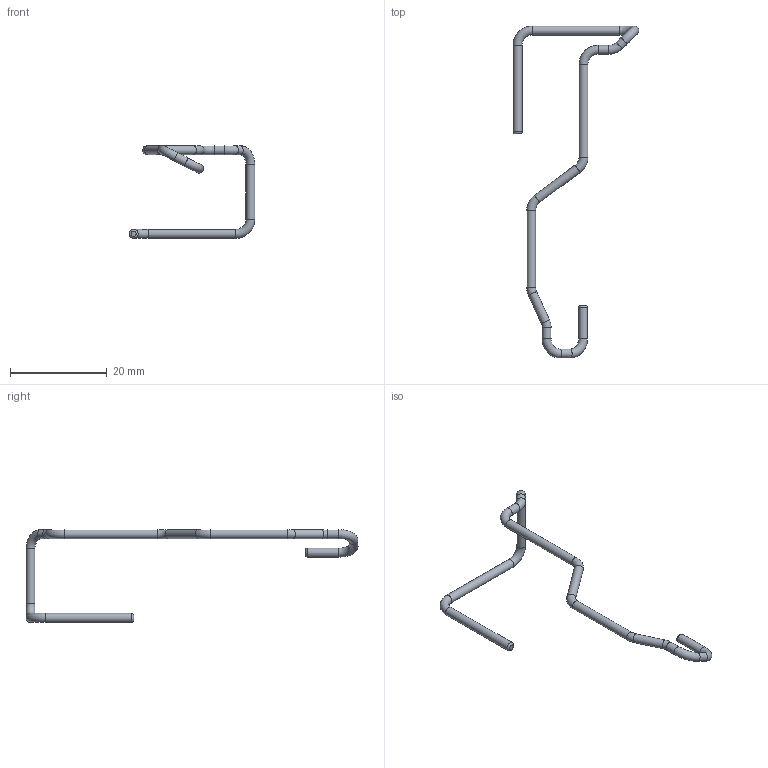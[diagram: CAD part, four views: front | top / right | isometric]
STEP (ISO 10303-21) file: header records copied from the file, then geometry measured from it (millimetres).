
FILE_DESCRIPTION(('Open CASCADE Model'),'2;1');
FILE_NAME('CUT_CK2_ADAPTER_LIGAMENT_CLEARANCE_0p4_FINAL', '2026-09-15T15:04:57',('Author'),('Open CASCADE'), 'Open CASCADE STEP processor 7.9','build123d','Unknown');
FILE_SCHEMA(('AUTOMOTIVE_DESIGN { 1 0 10303 214 1 1 1 1 }'));
Length unit declared in the file: millimetre
Products named in the file (1): CUT_CK2_ADAPTER_LIGAMENT_CLEARANCE_0p4_FINAL
Bounding box: 25.95 x 68.5 x 19.11 mm (x, y, z)
Volume: 412.4 mm3; surface area: 895.7 mm2
Topology: 1 solids, 1 shells, 27 faces, 51 edges, 26 vertices
Faces by surface type: torus 13, cylinder 12, plane 2
Full cylindrical faces by diameter (mm): 1.85 x12
Entity records: 1345 total; most frequent: DIRECTION 248, CARTESIAN_POINT 207, LINE 112, VECTOR 112, ORIENTED_EDGE 102, PCURVE 102, DEFINITIONAL_REPRESENTATION 102, AXIS2_PLACEMENT_3D 67
